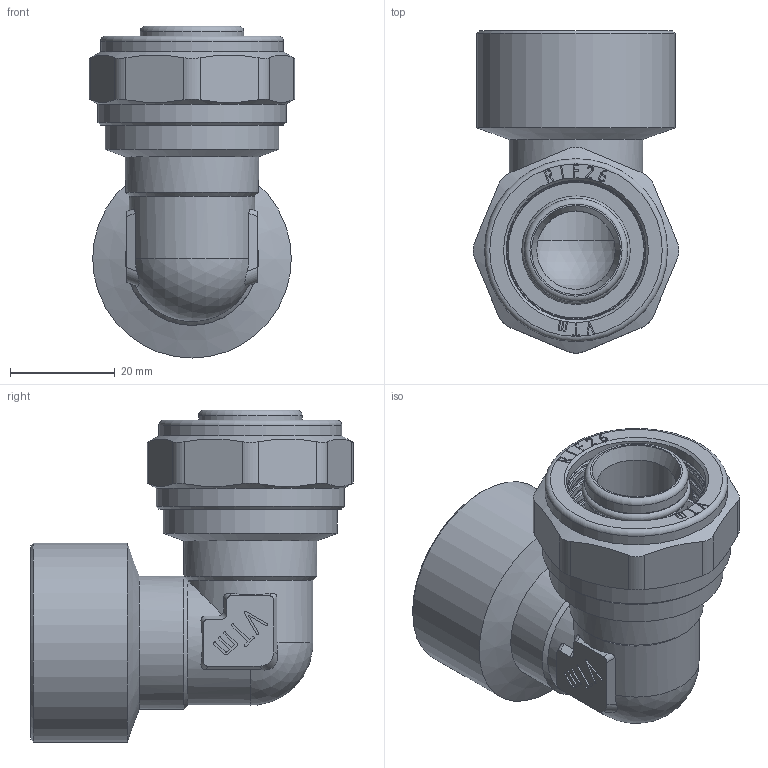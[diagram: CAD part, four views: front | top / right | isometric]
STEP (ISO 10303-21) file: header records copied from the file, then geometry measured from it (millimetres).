
FILE_DESCRIPTION(('STEP AP203'), '1');
FILE_NAME('VTm.352.N.002606', '', ('UNSPECIFIED'), ('UNSPECIFIED'), 'C3D Converter', 'C3D Toolkit', '');
FILE_SCHEMA(('CONFIG_CONTROL_DESIGN'));
Length unit declared in the file: millimetre
Products named in the file (1): ВР.302635.104.000 СБ
Bounding box: 39.39 x 61.69 x 63.5 mm (x, y, z)
Volume: 32622.6 mm3; surface area: 21491 mm2
Topology: 1 solids, 1 shells, 463 faces, 1270 edges, 834 vertices
Faces by surface type: extrusion 201, plane 156, cylinder 54, torus 29, cone 19, bspline 2, sphere 2
Full cylindrical faces by diameter (mm): 15 x1, 17.4 x4, 19 x1, 19.8 x5, 20 x1, 25.5 x2, 26.2 x1, 26.7 x1, 30.292 x2, 33.249 x1, 35 x1, 36 x1, 38 x1
Entity records: 17009 total; most frequent: CARTESIAN_POINT 6442, ORIENTED_EDGE 2436, DIRECTION 1509, EDGE_CURVE 1218, VERTEX_POINT 834, VECTOR 767, B_SPLINE_CURVE_WITH_KNOTS 704, LINE 566
